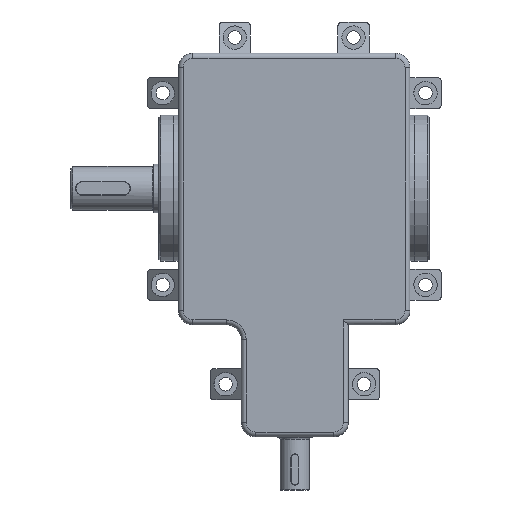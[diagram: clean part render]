
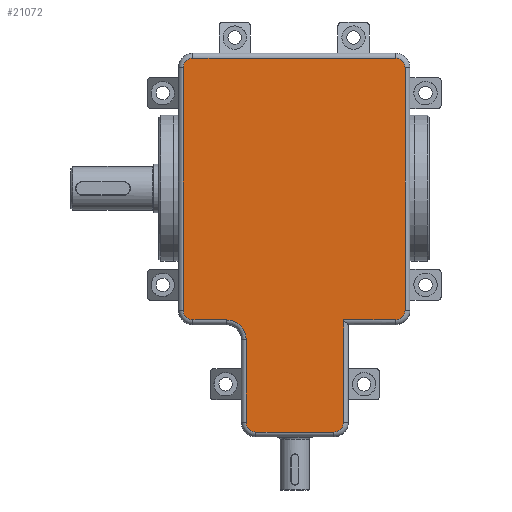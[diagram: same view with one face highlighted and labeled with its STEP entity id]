
A CAD part, left-side view. The second image highlights one B-rep face of the part: STEP entity #21072.
In plain terms, the highlighted planar face has unit normal (-1, 0, 0) as drawn and (0, 0, 1) by its records, which use the part's own axes.
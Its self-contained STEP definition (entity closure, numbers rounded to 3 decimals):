
#4054=LINE('',#41986,#4944);
#4056=LINE('',#41999,#4946);
#4058=LINE('',#42011,#4948);
#4060=LINE('',#42023,#4950);
#4062=LINE('',#42035,#4952);
#4064=LINE('',#42047,#4954);
#4066=LINE('',#42059,#4956);
#4067=LINE('',#42067,#4957);
#4944=VECTOR('',#29067,10.);
#4946=VECTOR('',#29083,10.);
#4948=VECTOR('',#29097,10.);
#4950=VECTOR('',#29111,10.);
#4952=VECTOR('',#29125,10.);
#4954=VECTOR('',#29139,10.);
#4956=VECTOR('',#29153,10.);
#4957=VECTOR('',#29164,10.);
#5781=PLANE('',#23700);
#6859=FACE_OUTER_BOUND('',#8101,.T.);
#8101=EDGE_LOOP('',(#19168,#19169,#19170,#19171,#19172,#19173,#19174,#19175,
#19176,#19177,#19178,#19179,#19180,#19181,#19182));
#9511=CIRCLE('',#23649,10.);
#9515=CIRCLE('',#23655,10.);
#9519=CIRCLE('',#23661,20.);
#9523=CIRCLE('',#23667,10.);
#9527=CIRCLE('',#23673,10.);
#9531=CIRCLE('',#23679,10.);
#9535=CIRCLE('',#23685,10.);
#11156=VERTEX_POINT('',#41983);
#11157=VERTEX_POINT('',#41985);
#11159=VERTEX_POINT('',#41990);
#11161=VERTEX_POINT('',#41996);
#11163=VERTEX_POINT('',#42002);
#11165=VERTEX_POINT('',#42008);
#11167=VERTEX_POINT('',#42014);
#11169=VERTEX_POINT('',#42020);
#11171=VERTEX_POINT('',#42026);
#11173=VERTEX_POINT('',#42032);
#11175=VERTEX_POINT('',#42038);
#11177=VERTEX_POINT('',#42044);
#11179=VERTEX_POINT('',#42050);
#11181=VERTEX_POINT('',#42056);
#11183=VERTEX_POINT('',#42062);
#13840=EDGE_CURVE('',#11157,#11156,#4054,.T.);
#13844=EDGE_CURVE('',#11159,#11157,#9511,.T.);
#13847=EDGE_CURVE('',#11161,#11159,#4056,.T.);
#13850=EDGE_CURVE('',#11163,#11161,#9515,.T.);
#13853=EDGE_CURVE('',#11165,#11163,#4058,.T.);
#13856=EDGE_CURVE('',#11167,#11165,#9519,.T.);
#13859=EDGE_CURVE('',#11169,#11167,#4060,.T.);
#13862=EDGE_CURVE('',#11171,#11169,#9523,.T.);
#13865=EDGE_CURVE('',#11173,#11171,#4062,.T.);
#13868=EDGE_CURVE('',#11175,#11173,#9527,.T.);
#13871=EDGE_CURVE('',#11177,#11175,#4064,.T.);
#13874=EDGE_CURVE('',#11179,#11177,#9531,.T.);
#13877=EDGE_CURVE('',#11181,#11179,#4066,.T.);
#13880=EDGE_CURVE('',#11183,#11181,#9535,.T.);
#13881=EDGE_CURVE('',#11156,#11183,#4067,.T.);
#19168=ORIENTED_EDGE('',*,*,#13840,.T.);
#19169=ORIENTED_EDGE('',*,*,#13881,.T.);
#19170=ORIENTED_EDGE('',*,*,#13880,.T.);
#19171=ORIENTED_EDGE('',*,*,#13877,.T.);
#19172=ORIENTED_EDGE('',*,*,#13874,.T.);
#19173=ORIENTED_EDGE('',*,*,#13871,.T.);
#19174=ORIENTED_EDGE('',*,*,#13868,.T.);
#19175=ORIENTED_EDGE('',*,*,#13865,.T.);
#19176=ORIENTED_EDGE('',*,*,#13862,.T.);
#19177=ORIENTED_EDGE('',*,*,#13859,.T.);
#19178=ORIENTED_EDGE('',*,*,#13856,.T.);
#19179=ORIENTED_EDGE('',*,*,#13853,.T.);
#19180=ORIENTED_EDGE('',*,*,#13850,.T.);
#19181=ORIENTED_EDGE('',*,*,#13847,.T.);
#19182=ORIENTED_EDGE('',*,*,#13844,.T.);
#21072=ADVANCED_FACE('',(#6859),#5781,.F.);
#23649=AXIS2_PLACEMENT_3D('',#41993,#29076,#29077);
#23655=AXIS2_PLACEMENT_3D('',#42005,#29090,#29091);
#23661=AXIS2_PLACEMENT_3D('',#42017,#29104,#29105);
#23667=AXIS2_PLACEMENT_3D('',#42029,#29118,#29119);
#23673=AXIS2_PLACEMENT_3D('',#42041,#29132,#29133);
#23679=AXIS2_PLACEMENT_3D('',#42053,#29146,#29147);
#23685=AXIS2_PLACEMENT_3D('',#42065,#29160,#29161);
#23700=AXIS2_PLACEMENT_3D('',#42123,#29214,#29215);
#29067=DIRECTION('',(0.,1.,0.));
#29076=DIRECTION('center_axis',(0.,0.,1.));
#29077=DIRECTION('ref_axis',(0.707,-0.707,0.));
#29083=DIRECTION('',(1.,0.,0.));
#29090=DIRECTION('center_axis',(0.,0.,1.));
#29091=DIRECTION('ref_axis',(-0.707,-0.707,0.));
#29097=DIRECTION('',(0.,-1.,0.));
#29104=DIRECTION('center_axis',(0.,0.,-1.));
#29105=DIRECTION('ref_axis',(0.707,0.707,0.));
#29111=DIRECTION('',(1.,0.,0.));
#29118=DIRECTION('center_axis',(0.,0.,1.));
#29119=DIRECTION('ref_axis',(-0.707,-0.707,0.));
#29125=DIRECTION('',(0.,-1.,0.));
#29132=DIRECTION('center_axis',(0.,0.,1.));
#29133=DIRECTION('ref_axis',(-0.707,0.707,0.));
#29139=DIRECTION('',(-1.,0.,0.));
#29146=DIRECTION('center_axis',(0.,0.,1.));
#29147=DIRECTION('ref_axis',(0.707,0.707,0.));
#29153=DIRECTION('',(0.,1.,0.));
#29160=DIRECTION('center_axis',(0.,0.,1.));
#29161=DIRECTION('ref_axis',(0.707,-0.707,0.));
#29164=DIRECTION('',(1.,0.,0.));
#29214=DIRECTION('center_axis',(0.,0.,-1.));
#29215=DIRECTION('ref_axis',(-1.,0.,0.));
#41983=CARTESIAN_POINT('',(50.,-25.5,145.));
#41985=CARTESIAN_POINT('',(50.,-130.5,145.));
#41986=CARTESIAN_POINT('',(50.,10.455,145.));
#41990=CARTESIAN_POINT('',(40.,-140.5,145.));
#41993=CARTESIAN_POINT('Origin',(40.,-130.5,145.));
#41996=CARTESIAN_POINT('',(-40.,-140.5,145.));
#41999=CARTESIAN_POINT('',(27.145,-140.5,145.));
#42002=CARTESIAN_POINT('',(-50.,-130.5,145.));
#42005=CARTESIAN_POINT('Origin',(-40.,-130.5,145.));
#42008=CARTESIAN_POINT('',(-50.,-45.5,145.));
#42011=CARTESIAN_POINT('',(-50.,-47.045,145.));
#42014=CARTESIAN_POINT('',(-70.,-25.5,145.));
#42017=CARTESIAN_POINT('Origin',(-70.,-45.5,145.));
#42020=CARTESIAN_POINT('',(-104.554,-25.5,145.));
#42023=CARTESIAN_POINT('',(-27.855,-25.5,145.));
#42026=CARTESIAN_POINT('',(-114.554,-15.5,145.));
#42029=CARTESIAN_POINT('Origin',(-104.554,-15.5,145.));
#42032=CARTESIAN_POINT('',(-114.554,233.322,145.));
#42035=CARTESIAN_POINT('',(-114.554,10.455,145.));
#42038=CARTESIAN_POINT('',(-104.554,243.322,145.));
#42041=CARTESIAN_POINT('Origin',(-104.554,233.322,145.));
#42044=CARTESIAN_POINT('',(103.133,243.322,145.));
#42047=CARTESIAN_POINT('',(-60.132,243.322,145.));
#42050=CARTESIAN_POINT('',(113.133,233.322,145.));
#42053=CARTESIAN_POINT('Origin',(103.133,233.322,145.));
#42056=CARTESIAN_POINT('',(113.133,-15.5,145.));
#42059=CARTESIAN_POINT('',(113.133,149.866,145.));
#42062=CARTESIAN_POINT('',(103.133,-25.5,145.));
#42065=CARTESIAN_POINT('Origin',(103.133,-15.5,145.));
#42067=CARTESIAN_POINT('',(58.711,-25.5,145.));
#42123=CARTESIAN_POINT('Origin',(-0.71,51.411,145.));
